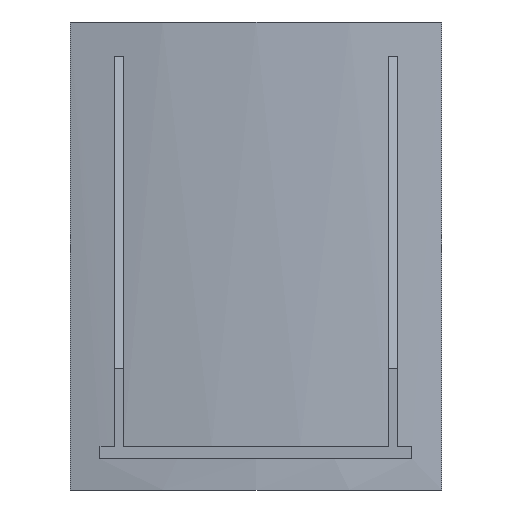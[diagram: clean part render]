
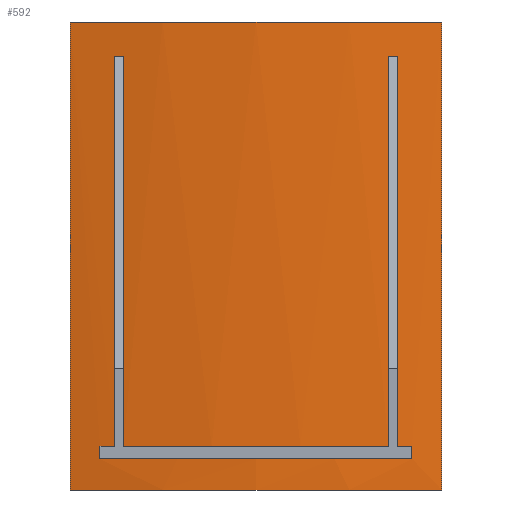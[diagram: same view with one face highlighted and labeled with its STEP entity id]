
A CAD part, left-side view. The second image highlights one B-rep face of the part: STEP entity #592.
In plain terms, the highlighted cylindrical face has radius 1168 mm (diameter 2336 mm), a partial arc.
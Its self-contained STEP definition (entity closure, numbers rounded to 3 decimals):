
#19=FACE_BOUND('',#109,.T.);
#73=FACE_OUTER_BOUND('',#108,.T.);
#108=EDGE_LOOP('',(#536,#537,#538,#539));
#109=EDGE_LOOP('',(#540,#541,#542,#543,#544,#545,#546,#547,#548,#549));
#160=LINE('',#945,#226);
#167=LINE('',#957,#233);
#169=LINE('',#967,#235);
#175=LINE('',#982,#241);
#176=LINE('',#986,#242);
#177=LINE('',#987,#243);
#226=VECTOR('',#774,10.);
#233=VECTOR('',#785,10.);
#235=VECTOR('',#797,10.);
#241=VECTOR('',#811,10.);
#242=VECTOR('',#818,10.);
#243=VECTOR('',#819,10.);
#252=CIRCLE('',#642,1168.);
#253=CIRCLE('',#644,1168.);
#254=CIRCLE('',#649,1168.);
#255=CIRCLE('',#651,1168.);
#258=CIRCLE('',#658,1168.);
#259=CIRCLE('',#659,1168.);
#285=VERTEX_POINT('',#894);
#288=VERTEX_POINT('',#904);
#291=VERTEX_POINT('',#912);
#292=VERTEX_POINT('',#916);
#296=VERTEX_POINT('',#935);
#298=VERTEX_POINT('',#941);
#300=VERTEX_POINT('',#944);
#303=VERTEX_POINT('',#955);
#305=VERTEX_POINT('',#964);
#306=VERTEX_POINT('',#966);
#310=VERTEX_POINT('',#978);
#311=VERTEX_POINT('',#980);
#364=EDGE_CURVE('',#291,#292,#252,.T.);
#366=EDGE_CURVE('',#296,#291,#253,.T.);
#370=EDGE_CURVE('',#300,#298,#160,.T.);
#377=EDGE_CURVE('',#303,#296,#167,.T.);
#378=EDGE_CURVE('',#298,#303,#254,.T.);
#379=EDGE_CURVE('',#292,#300,#255,.T.);
#381=EDGE_CURVE('',#305,#306,#169,.T.);
#389=EDGE_CURVE('',#310,#311,#175,.T.);
#390=EDGE_CURVE('',#305,#310,#258,.T.);
#391=EDGE_CURVE('',#306,#311,#259,.T.);
#392=EDGE_CURVE('',#291,#288,#176,.T.);
#393=EDGE_CURVE('',#292,#285,#177,.T.);
#536=ORIENTED_EDGE('',*,*,#390,.T.);
#537=ORIENTED_EDGE('',*,*,#389,.T.);
#538=ORIENTED_EDGE('',*,*,#391,.F.);
#539=ORIENTED_EDGE('',*,*,#381,.F.);
#540=ORIENTED_EDGE('',*,*,#377,.T.);
#541=ORIENTED_EDGE('',*,*,#366,.T.);
#542=ORIENTED_EDGE('',*,*,#392,.T.);
#543=ORIENTED_EDGE('',*,*,#392,.F.);
#544=ORIENTED_EDGE('',*,*,#364,.T.);
#545=ORIENTED_EDGE('',*,*,#393,.T.);
#546=ORIENTED_EDGE('',*,*,#393,.F.);
#547=ORIENTED_EDGE('',*,*,#379,.T.);
#548=ORIENTED_EDGE('',*,*,#370,.T.);
#549=ORIENTED_EDGE('',*,*,#378,.T.);
#563=CYLINDRICAL_SURFACE('',#657,1168.);
#592=ADVANCED_FACE('',(#73,#19),#563,.T.);
#642=AXIS2_PLACEMENT_3D('',#932,#762,#763);
#644=AXIS2_PLACEMENT_3D('',#936,#767,#768);
#649=AXIS2_PLACEMENT_3D('',#959,#788,#789);
#651=AXIS2_PLACEMENT_3D('',#961,#792,#793);
#657=AXIS2_PLACEMENT_3D('',#983,#812,#813);
#658=AXIS2_PLACEMENT_3D('',#984,#814,#815);
#659=AXIS2_PLACEMENT_3D('',#985,#816,#817);
#762=DIRECTION('center_axis',(0.,0.,1.));
#763=DIRECTION('ref_axis',(-0.979,0.204,0.));
#767=DIRECTION('center_axis',(0.,0.,1.));
#768=DIRECTION('ref_axis',(-0.979,0.204,0.));
#774=DIRECTION('',(0.,0.,-1.));
#785=DIRECTION('',(0.,0.,1.));
#788=DIRECTION('center_axis',(0.,0.,-1.));
#789=DIRECTION('ref_axis',(-0.979,0.204,0.));
#792=DIRECTION('center_axis',(0.,0.,1.));
#793=DIRECTION('ref_axis',(-0.979,0.204,0.));
#797=DIRECTION('',(0.,0.,1.));
#811=DIRECTION('',(0.,0.,1.));
#812=DIRECTION('center_axis',(0.,0.,1.));
#813=DIRECTION('ref_axis',(-0.979,0.204,0.));
#814=DIRECTION('center_axis',(0.,0.,1.));
#815=DIRECTION('ref_axis',(-0.979,0.204,0.));
#816=DIRECTION('center_axis',(0.,0.,1.));
#817=DIRECTION('ref_axis',(-0.979,0.204,0.));
#818=DIRECTION('',(0.,0.,1.));
#819=DIRECTION('',(0.,0.,1.));
#894=CARTESIAN_POINT('',(-1155.562,-170.,556.));
#904=CARTESIAN_POINT('',(-1155.562,170.,556.));
#912=CARTESIAN_POINT('',(-1155.562,170.,56.));
#916=CARTESIAN_POINT('',(-1155.562,-170.,56.));
#932=CARTESIAN_POINT('Origin',(0.,0.,56.));
#935=CARTESIAN_POINT('',(-1150.749,200.,56.));
#936=CARTESIAN_POINT('Origin',(0.,0.,56.));
#941=CARTESIAN_POINT('',(-1150.749,-200.,40.));
#944=CARTESIAN_POINT('',(-1150.749,-200.,56.));
#945=CARTESIAN_POINT('',(-1150.749,-200.,0.));
#955=CARTESIAN_POINT('',(-1150.749,200.,40.));
#957=CARTESIAN_POINT('',(-1150.749,200.,0.));
#959=CARTESIAN_POINT('Origin',(0.,0.,40.));
#961=CARTESIAN_POINT('Origin',(0.,0.,56.));
#964=CARTESIAN_POINT('',(-1143.429,238.315,0.));
#966=CARTESIAN_POINT('',(-1143.429,238.315,600.));
#967=CARTESIAN_POINT('',(-1143.429,238.315,0.));
#978=CARTESIAN_POINT('',(-1143.429,-238.315,0.));
#980=CARTESIAN_POINT('',(-1143.429,-238.315,600.));
#982=CARTESIAN_POINT('',(-1143.429,-238.315,0.));
#983=CARTESIAN_POINT('Origin',(0.,0.,0.));
#984=CARTESIAN_POINT('Origin',(0.,0.,0.));
#985=CARTESIAN_POINT('Origin',(0.,0.,600.));
#986=CARTESIAN_POINT('',(-1155.562,170.,0.));
#987=CARTESIAN_POINT('',(-1155.562,-170.,0.));
